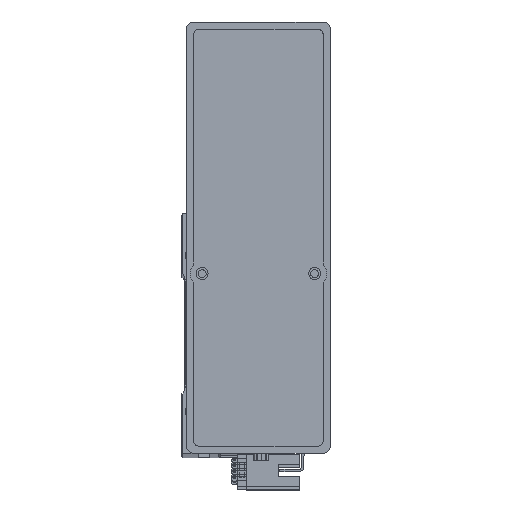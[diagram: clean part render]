
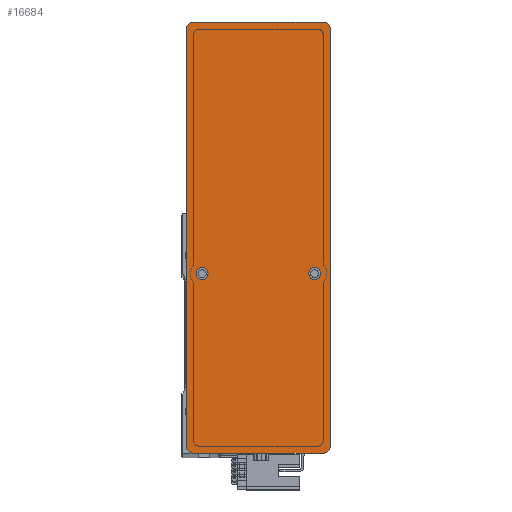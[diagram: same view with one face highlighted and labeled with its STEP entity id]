
A CAD part, top view. The second image highlights one B-rep face of the part: STEP entity #16684.
In plain terms, the highlighted planar face has unit normal (0, 0, 1) as drawn and (0, 0, -1) by its records, which use the part's own axes.
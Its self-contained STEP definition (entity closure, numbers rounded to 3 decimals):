
#924 = CARTESIAN_POINT ( 'NONE',  ( -17.5, -23.5, 0. ) ) ;
#1486 = CARTESIAN_POINT ( 'NONE',  ( 90., -27., 0. ) ) ;
#1530 = CARTESIAN_POINT ( 'NONE',  ( 90., -30., 0. ) ) ;
#2528 = CARTESIAN_POINT ( 'NONE',  ( 90., -30., 0. ) ) ;
#3476 = LINE ( 'NONE', #2528, #42174 ) ;
#3511 = DIRECTION ( 'NONE',  ( -1., 0., 0. ) ) ;
#3514 = CIRCLE ( 'NONE', #45328, 3. ) ;
#3557 = DIRECTION ( 'NONE',  ( 1., 0., 0. ) ) ;
#3813 = CARTESIAN_POINT ( 'NONE',  ( 87., -30., 0. ) ) ;
#3888 = VERTEX_POINT ( 'NONE', #10263 ) ;
#4074 = VECTOR ( 'NONE', #24013, 1000. ) ;
#4438 = ORIENTED_EDGE ( 'NONE', *, *, #31901, .F. ) ;
#4452 = ORIENTED_EDGE ( 'NONE', *, *, #36168, .T. ) ;
#5305 = CARTESIAN_POINT ( 'NONE',  ( 90., 30., 0. ) ) ;
#5656 = CARTESIAN_POINT ( 'NONE',  ( -87., 27., 0. ) ) ;
#5797 = EDGE_LOOP ( 'NONE', ( #8749, #4452, #35380, #25889, #28258, #36253, #36863, #43381 ) ) ;
#5967 = DIRECTION ( 'NONE',  ( 0., 0., -1. ) ) ;
#8749 = ORIENTED_EDGE ( 'NONE', *, *, #34055, .F. ) ;
#8794 = FACE_OUTER_BOUND ( 'NONE', #5797, .T. ) ;
#9412 = DIRECTION ( 'NONE',  ( 1., 0., 0. ) ) ;
#9676 = VERTEX_POINT ( 'NONE', #924 ) ;
#10195 = DIRECTION ( 'NONE',  ( 0., 0., -1. ) ) ;
#10263 = CARTESIAN_POINT ( 'NONE',  ( -87., -30., 0. ) ) ;
#11383 = CARTESIAN_POINT ( 'NONE',  ( -17.5, 23.5, 0. ) ) ;
#11676 = ORIENTED_EDGE ( 'NONE', *, *, #29433, .F. ) ;
#11746 = VECTOR ( 'NONE', #35290, 1000. ) ;
#12230 = EDGE_LOOP ( 'NONE', ( #4438, #12501 ) ) ;
#12257 = CARTESIAN_POINT ( 'NONE',  ( -90., 27., 0. ) ) ;
#12501 = ORIENTED_EDGE ( 'NONE', *, *, #29640, .F. ) ;
#12547 = CARTESIAN_POINT ( 'NONE',  ( 90., 27., 0. ) ) ;
#14539 = CARTESIAN_POINT ( 'NONE',  ( -15., 23.5, 0. ) ) ;
#14970 = DIRECTION ( 'NONE',  ( 0., 0., -1. ) ) ;
#16533 = AXIS2_PLACEMENT_3D ( 'NONE', #14539, #40760, #18308 ) ;
#16684 = ADVANCED_FACE ( 'NONE', ( #47542, #38705, #8794 ), #22230, .F. ) ;
#18265 = LINE ( 'NONE', #46039, #29387 ) ;
#18308 = DIRECTION ( 'NONE',  ( -1., 0., 0. ) ) ;
#18460 = CARTESIAN_POINT ( 'NONE',  ( 0., 0., 0. ) ) ;
#19548 = AXIS2_PLACEMENT_3D ( 'NONE', #32703, #10195, #36430 ) ;
#19749 = VERTEX_POINT ( 'NONE', #25572 ) ;
#19759 = DIRECTION ( 'NONE',  ( 0., -1., 0. ) ) ;
#21880 = CARTESIAN_POINT ( 'NONE',  ( 87., 27., 0. ) ) ;
#21896 = AXIS2_PLACEMENT_3D ( 'NONE', #18460, #25993, #3557 ) ;
#22199 = CARTESIAN_POINT ( 'NONE',  ( -15., 23.5, 0. ) ) ;
#22230 = PLANE ( 'NONE',  #21896 ) ;
#23037 = CARTESIAN_POINT ( 'NONE',  ( -12.5, -23.5, 0. ) ) ;
#23099 = VERTEX_POINT ( 'NONE', #12257 ) ;
#24013 = DIRECTION ( 'NONE',  ( 0., 1., 0. ) ) ;
#25572 = CARTESIAN_POINT ( 'NONE',  ( 87., 30., 0. ) ) ;
#25584 = CIRCLE ( 'NONE', #33143, 3. ) ;
#25664 = DIRECTION ( 'NONE',  ( 1., 0., 0. ) ) ;
#25889 = ORIENTED_EDGE ( 'NONE', *, *, #41277, .T. ) ;
#25950 = DIRECTION ( 'NONE',  ( 0., 0., -1. ) ) ;
#25960 = DIRECTION ( 'NONE',  ( -1., 0., 0. ) ) ;
#25993 = DIRECTION ( 'NONE',  ( 0., 0., 1. ) ) ;
#28137 = CIRCLE ( 'NONE', #30214, 2.5 ) ;
#28258 = ORIENTED_EDGE ( 'NONE', *, *, #33349, .F. ) ;
#28447 = CARTESIAN_POINT ( 'NONE',  ( -15., -23.5, 0. ) ) ;
#29120 = CARTESIAN_POINT ( 'NONE',  ( -87., 30., 0. ) ) ;
#29228 = VERTEX_POINT ( 'NONE', #11383 ) ;
#29379 = CIRCLE ( 'NONE', #19548, 3. ) ;
#29387 = VECTOR ( 'NONE', #19759, 1000. ) ;
#29433 = EDGE_CURVE ( 'NONE', #9676, #35921, #32742, .T. ) ;
#29640 = EDGE_CURVE ( 'NONE', #31339, #29228, #36193, .T. ) ;
#30214 = AXIS2_PLACEMENT_3D ( 'NONE', #48389, #25950, #3511 ) ;
#30472 = ORIENTED_EDGE ( 'NONE', *, *, #41231, .F. ) ;
#31339 = VERTEX_POINT ( 'NONE', #40371 ) ;
#31666 = AXIS2_PLACEMENT_3D ( 'NONE', #5656, #31899, #9412 ) ;
#31899 = DIRECTION ( 'NONE',  ( 0., 0., -1. ) ) ;
#31901 = EDGE_CURVE ( 'NONE', #29228, #31339, #36112, .T. ) ;
#32220 = DIRECTION ( 'NONE',  ( -1., 0., 0. ) ) ;
#32529 = DIRECTION ( 'NONE',  ( 1., 0., 0. ) ) ;
#32703 = CARTESIAN_POINT ( 'NONE',  ( 87., -27., 0. ) ) ;
#32742 = CIRCLE ( 'NONE', #34622, 2.5 ) ;
#33143 = AXIS2_PLACEMENT_3D ( 'NONE', #21880, #48091, #25664 ) ;
#33349 = EDGE_CURVE ( 'NONE', #23099, #44137, #18265, .T. ) ;
#33529 = CARTESIAN_POINT ( 'NONE',  ( -90., -27., 0. ) ) ;
#34055 = EDGE_CURVE ( 'NONE', #34940, #37680, #43957, .T. ) ;
#34216 = EDGE_CURVE ( 'NONE', #3888, #47743, #3476, .T. ) ;
#34622 = AXIS2_PLACEMENT_3D ( 'NONE', #28447, #5967, #32220 ) ;
#34940 = VERTEX_POINT ( 'NONE', #1486 ) ;
#35290 = DIRECTION ( 'NONE',  ( -1., 0., 0. ) ) ;
#35380 = ORIENTED_EDGE ( 'NONE', *, *, #34216, .F. ) ;
#35921 = VERTEX_POINT ( 'NONE', #23037 ) ;
#36112 = CIRCLE ( 'NONE', #16533, 2.5 ) ;
#36168 = EDGE_CURVE ( 'NONE', #34940, #47743, #29379, .T. ) ;
#36193 = CIRCLE ( 'NONE', #41252, 2.5 ) ;
#36253 = ORIENTED_EDGE ( 'NONE', *, *, #43878, .T. ) ;
#36430 = DIRECTION ( 'NONE',  ( 1., 0., 0. ) ) ;
#36863 = ORIENTED_EDGE ( 'NONE', *, *, #40977, .F. ) ;
#37401 = CARTESIAN_POINT ( 'NONE',  ( -87., -27., 0. ) ) ;
#37680 = VERTEX_POINT ( 'NONE', #12547 ) ;
#38705 = FACE_BOUND ( 'NONE', #38960, .T. ) ;
#38960 = EDGE_LOOP ( 'NONE', ( #11676, #30472 ) ) ;
#40371 = CARTESIAN_POINT ( 'NONE',  ( -12.5, 23.5, 0. ) ) ;
#40760 = DIRECTION ( 'NONE',  ( 0., 0., -1. ) ) ;
#40977 = EDGE_CURVE ( 'NONE', #19749, #45105, #41685, .T. ) ;
#41177 = DIRECTION ( 'NONE',  ( 1., 0., 0. ) ) ;
#41231 = EDGE_CURVE ( 'NONE', #35921, #9676, #28137, .T. ) ;
#41252 = AXIS2_PLACEMENT_3D ( 'NONE', #22199, #48404, #25960 ) ;
#41277 = EDGE_CURVE ( 'NONE', #3888, #44137, #3514, .T. ) ;
#41685 = LINE ( 'NONE', #5305, #11746 ) ;
#42174 = VECTOR ( 'NONE', #32529, 1000. ) ;
#43381 = ORIENTED_EDGE ( 'NONE', *, *, #47113, .T. ) ;
#43878 = EDGE_CURVE ( 'NONE', #23099, #45105, #47835, .T. ) ;
#43957 = LINE ( 'NONE', #1530, #4074 ) ;
#44137 = VERTEX_POINT ( 'NONE', #33529 ) ;
#45105 = VERTEX_POINT ( 'NONE', #29120 ) ;
#45328 = AXIS2_PLACEMENT_3D ( 'NONE', #37401, #14970, #41177 ) ;
#46039 = CARTESIAN_POINT ( 'NONE',  ( -90., -30., 0. ) ) ;
#47113 = EDGE_CURVE ( 'NONE', #19749, #37680, #25584, .T. ) ;
#47542 = FACE_BOUND ( 'NONE', #12230, .T. ) ;
#47743 = VERTEX_POINT ( 'NONE', #3813 ) ;
#47835 = CIRCLE ( 'NONE', #31666, 3. ) ;
#48091 = DIRECTION ( 'NONE',  ( 0., 0., -1. ) ) ;
#48389 = CARTESIAN_POINT ( 'NONE',  ( -15., -23.5, 0. ) ) ;
#48404 = DIRECTION ( 'NONE',  ( 0., 0., -1. ) ) ;
